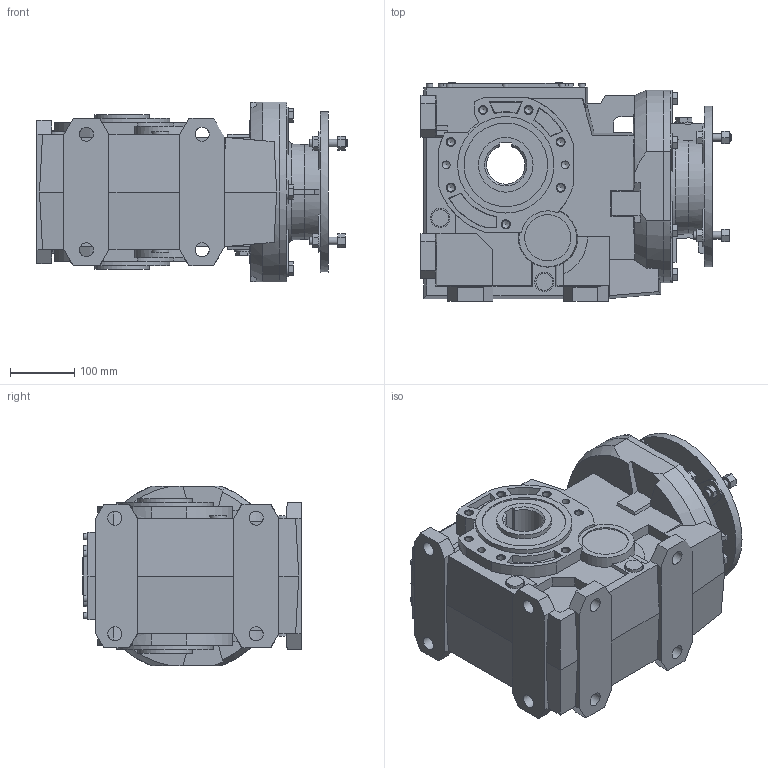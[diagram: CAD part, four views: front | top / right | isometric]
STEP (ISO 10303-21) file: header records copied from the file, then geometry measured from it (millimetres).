
FILE_DESCRIPTION(/* description */ ('STEP AP214'),/* implementation_level */ '2;1');
FILE_NAME(/* name */ 'B123UC100-112 B5600000000NO----(---------------)',/* time_stamp */ '2024-11-18T09:23:53+01:00',/* author */ ('License CC BY-ND 4.0'),/* organization */ ('CADENAS'),/* preprocessor_version */ 'ST-DEVELOPER v19.3',/* originating_system */ 'PARTsolutions',/* authorisation */ ' ');
FILE_SCHEMA (('AUTOMOTIVE_DESIGN {1 0 10303 214 3 1 1}'));
Length unit declared in the file: millimetre
Products named in the file (5): B123UC100-112 B5600000000NO----(---------------); 123-U-85; 123-60-C; 123-B-250x28(100-112 B51); B123-250x28
Assembly tree (4 placements, depth 2):
  B123UC100-112 B5600000000NO----(---------------)
    123-U-85
    123-60-C
    123-B-250x28(100-112 B51)
    B123-250x28
Bounding box: 482.5 x 340 x 280 mm (x, y, z)
Volume: 23900900 mm3; surface area: 1177678.4 mm2
Topology: 4 solids, 4 shells, 755 faces, 1983 edges, 1309 vertices
Faces by surface type: plane 548, cylinder 142, cone 64, torus 1
Full cylindrical faces by diameter (mm): 9.1 x3, 10 x10, 11.835 x14, 12 x12, 22 x8, 26 x3, 28 x2, 30 x5, 36 x1, 45 x1, 72 x2, 85 x2, 130 x2, 150 x2, 180 x1, 250 x3
Entity records: 27700 total; most frequent: CARTESIAN_POINT 4186, DIRECTION 3684, ORIENTED_EDGE 3668, EDGE_CURVE 1834, LINE 1304, VECTOR 1304, VERTEX_POINT 1286, AXIS2_PLACEMENT_3D 1190
